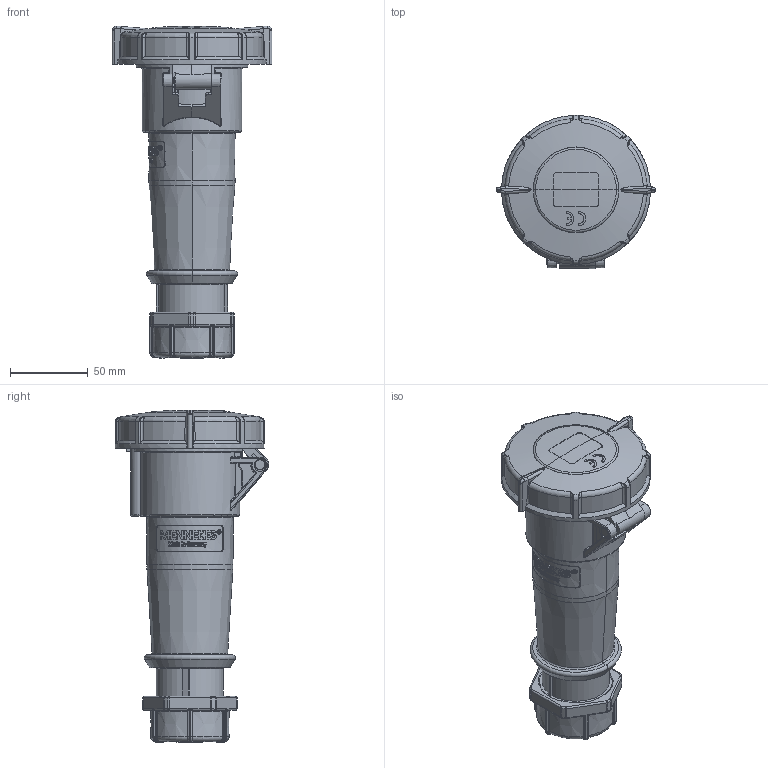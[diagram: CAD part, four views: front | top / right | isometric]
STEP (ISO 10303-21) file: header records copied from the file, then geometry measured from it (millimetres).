
FILE_DESCRIPTION((''),'2;1');
FILE_NAME('552A_SW0001','2018-02-16T',('gisse'),('MENNEKES'),'PRO/ENGINEER BY PARAMETRIC TECHNOLOGY CORPORATION, 2015440','PRO/ENGINEER BY PARAMETRIC TECHNOLOGY CORPORATION, 2015440','');
FILE_SCHEMA(('AUTOMOTIVE_DESIGN { 1 0 10303 214 1 1 1 1 }'));
Length unit declared in the file: millimetre
Products named in the file (1): 552A_SW0001
Bounding box: 102.6 x 98.3 x 213.04 mm (x, y, z)
Volume: 594505.9 mm3; surface area: 62998.5 mm2
Topology: 1 solids, 1 shells, 1699 faces, 4506 edges, 2856 vertices
Faces by surface type: plane 711, cylinder 276, extrusion 242, bspline 215, torus 133, cone 92, sphere 30
Entity records: 84349 total; most frequent: CARTESIAN_POINT 24145, ORIENTED_EDGE 9008, DIRECTION 6910, EDGE_CURVE 4504, FILL_AREA_STYLE_COLOUR 3246, FILL_AREA_STYLE 3246, SURFACE_STYLE_FILL_AREA 3246, SURFACE_SIDE_STYLE 3246
